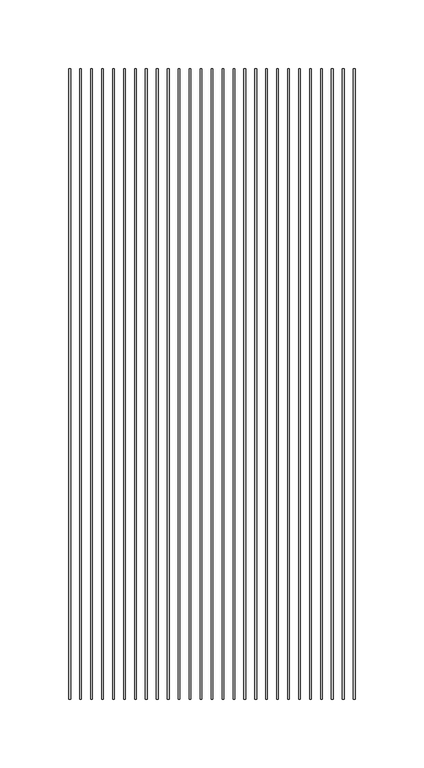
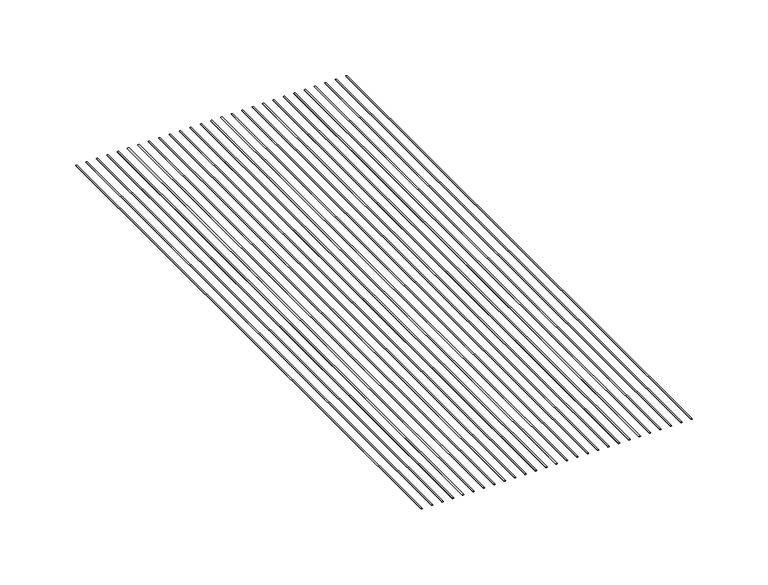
"""IFC4 building model written with IfcOpenShell, lengths in millimetres: proxy geometry, CRAi Generic Model Mesh Piece Face Based : CRAi Generic Model Mesh Piece Face Based."""

from ifc_helpers import new_model, si_unit, point, frame, origin, place, context, project, spatial, ellipse_curve, trimmed, source, transform, mapped, element, save
from ifc_brep_helpers import plane_surface, extruded_surface, advanced_brep


def generic_models_7232ab98(model_context):
    return source(origin(), model_context, "Body", "AdvancedBrep", [
        advanced_brep(
        [(-164.9015625, -228.6, -2.5796875), (-163.7109375, -228.6, -2.5796875), (-164.9015625, 228.6, -2.5796875), (-163.7109375, 228.6, -2.5796875)],
        [
            (0, 1, ellipse_curve(frame((-164.30625, -228.6, -2.5796875), z_axis=(0.0, -1.0, 0.0), x_axis=(1.0, 0.0, 0.0)), 0.5953125, 0.1984375)),
            (1, 0, ellipse_curve(frame((-164.30625, -228.6, -2.5796875), z_axis=(0.0, -1.0, 0.0), x_axis=(1.0, 0.0, 0.0)), 0.5953125, 0.1984375)),
            (2, 3, ellipse_curve(frame((-164.30625, 228.6, -2.5796875), z_axis=(0.0, 1.0, 0.0), x_axis=(1.0, 0.0, 0.0)), 0.5953125, 0.1984375)),
            (3, 2, ellipse_curve(frame((-164.30625, 228.6, -2.5796875), z_axis=(0.0, 1.0, 0.0), x_axis=(1.0, 0.0, 0.0)), 0.5953125, 0.1984375)),
            (0, 2),
            (3, 1),
        ],
        [
            plane_surface(frame((-164.30625, -228.6, -2.5796875), z_axis=(0.0, -1.0, 0.0), x_axis=(0.0, 0.0, 1.0))),
            plane_surface(frame((-164.30625, 228.6, -2.5796875), z_axis=(0.0, 1.0, 0.0), x_axis=(0.0, 0.0, 1.0))),
            extruded_surface(trimmed(ellipse_curve(frame((-164.30625, 228.6, -2.5796875), z_axis=(0.0, -1.0, 0.0), x_axis=(1.0, 0.0, 0.0)), 0.5953125, 0.1984375), [point((-164.9015625, 228.6, -2.5796875))], [point((-163.7109375, 228.6, -2.5796875))], True, "CARTESIAN"), (0.0, -457.2, 0.0), 457.2),
            extruded_surface(trimmed(ellipse_curve(frame((-164.30625, 228.6, -2.5796875), z_axis=(0.0, -1.0, 0.0), x_axis=(1.0, 0.0, 0.0)), 0.5953125, 0.1984375), [point((-163.7109375, 228.6, -2.5796875))], [point((-164.9015625, 228.6, -2.5796875))], True, "CARTESIAN"), (0.0, -457.2, 0.0), 457.2),
        ],
        [
            (0, [[1, 2]]),
            (1, [[3, 4]]),
            (2, [[-1, 5, -4, 6]]),
            (3, [[-2, -6, -3, -5]]),
        ],
    ),
        advanced_brep(
        [(-156.9640625, -228.6, -2.5796875), (-155.7734375, -228.6, -2.5796875), (-156.9640625, 228.6, -2.5796875), (-155.7734375, 228.6, -2.5796875)],
        [
            (0, 1, ellipse_curve(frame((-156.36875, -228.6, -2.5796875), z_axis=(0.0, -1.0, 0.0), x_axis=(1.0, 0.0, 0.0)), 0.5953125, 0.1984375)),
            (1, 0, ellipse_curve(frame((-156.36875, -228.6, -2.5796875), z_axis=(0.0, -1.0, 0.0), x_axis=(1.0, 0.0, 0.0)), 0.5953125, 0.1984375)),
            (2, 3, ellipse_curve(frame((-156.36875, 228.6, -2.5796875), z_axis=(0.0, 1.0, 0.0), x_axis=(1.0, 0.0, 0.0)), 0.5953125, 0.1984375)),
            (3, 2, ellipse_curve(frame((-156.36875, 228.6, -2.5796875), z_axis=(0.0, 1.0, 0.0), x_axis=(1.0, 0.0, 0.0)), 0.5953125, 0.1984375)),
            (0, 2),
            (3, 1),
        ],
        [
            plane_surface(frame((-156.36875, -228.6, -2.5796875), z_axis=(0.0, -1.0, 0.0), x_axis=(0.0, 0.0, 1.0))),
            plane_surface(frame((-156.36875, 228.6, -2.5796875), z_axis=(0.0, 1.0, 0.0), x_axis=(0.0, 0.0, 1.0))),
            extruded_surface(trimmed(ellipse_curve(frame((-156.36875, 228.6, -2.5796875), z_axis=(0.0, -1.0, 0.0), x_axis=(1.0, 0.0, 0.0)), 0.5953125, 0.1984375), [point((-156.9640625, 228.6, -2.5796875))], [point((-155.7734375, 228.6, -2.5796875))], True, "CARTESIAN"), (0.0, -457.2, 0.0), 457.2),
            extruded_surface(trimmed(ellipse_curve(frame((-156.36875, 228.6, -2.5796875), z_axis=(0.0, -1.0, 0.0), x_axis=(1.0, 0.0, 0.0)), 0.5953125, 0.1984375), [point((-155.7734375, 228.6, -2.5796875))], [point((-156.9640625, 228.6, -2.5796875))], True, "CARTESIAN"), (0.0, -457.2, 0.0), 457.2),
        ],
        [
            (0, [[1, 2]]),
            (1, [[3, 4]]),
            (2, [[-1, 5, -4, 6]]),
            (3, [[-2, -6, -3, -5]]),
        ],
    ),
        advanced_brep(
        [(-149.0265625, -228.6, -2.5796875), (-147.8359375, -228.6, -2.5796875), (-149.0265625, 228.6, -2.5796875), (-147.8359375, 228.6, -2.5796875)],
        [
            (0, 1, ellipse_curve(frame((-148.43125, -228.6, -2.5796875), z_axis=(0.0, -1.0, 0.0), x_axis=(1.0, 0.0, 0.0)), 0.5953125, 0.1984375)),
            (1, 0, ellipse_curve(frame((-148.43125, -228.6, -2.5796875), z_axis=(0.0, -1.0, 0.0), x_axis=(1.0, 0.0, 0.0)), 0.5953125, 0.1984375)),
            (2, 3, ellipse_curve(frame((-148.43125, 228.6, -2.5796875), z_axis=(0.0, 1.0, 0.0), x_axis=(1.0, 0.0, 0.0)), 0.5953125, 0.1984375)),
            (3, 2, ellipse_curve(frame((-148.43125, 228.6, -2.5796875), z_axis=(0.0, 1.0, 0.0), x_axis=(1.0, 0.0, 0.0)), 0.5953125, 0.1984375)),
            (0, 2),
            (3, 1),
        ],
        [
            plane_surface(frame((-148.43125, -228.6, -2.5796875), z_axis=(0.0, -1.0, 0.0), x_axis=(0.0, 0.0, 1.0))),
            plane_surface(frame((-148.43125, 228.6, -2.5796875), z_axis=(0.0, 1.0, 0.0), x_axis=(0.0, 0.0, 1.0))),
            extruded_surface(trimmed(ellipse_curve(frame((-148.43125, 228.6, -2.5796875), z_axis=(0.0, -1.0, 0.0), x_axis=(1.0, 0.0, 0.0)), 0.5953125, 0.1984375), [point((-149.0265625, 228.6, -2.5796875))], [point((-147.8359375, 228.6, -2.5796875))], True, "CARTESIAN"), (0.0, -457.2, 0.0), 457.2),
            extruded_surface(trimmed(ellipse_curve(frame((-148.43125, 228.6, -2.5796875), z_axis=(0.0, -1.0, 0.0), x_axis=(1.0, 0.0, 0.0)), 0.5953125, 0.1984375), [point((-147.8359375, 228.6, -2.5796875))], [point((-149.0265625, 228.6, -2.5796875))], True, "CARTESIAN"), (0.0, -457.2, 0.0), 457.2),
        ],
        [
            (0, [[1, 2]]),
            (1, [[3, 4]]),
            (2, [[-1, 5, -4, 6]]),
            (3, [[-2, -6, -3, -5]]),
        ],
    ),
        advanced_brep(
        [(-141.0890625, -228.6, -2.5796875), (-139.8984375, -228.6, -2.5796875), (-141.0890625, 228.6, -2.5796875), (-139.8984375, 228.6, -2.5796875)],
        [
            (0, 1, ellipse_curve(frame((-140.49375, -228.6, -2.5796875), z_axis=(0.0, -1.0, 0.0), x_axis=(1.0, 0.0, 0.0)), 0.5953125, 0.1984375)),
            (1, 0, ellipse_curve(frame((-140.49375, -228.6, -2.5796875), z_axis=(0.0, -1.0, 0.0), x_axis=(1.0, 0.0, 0.0)), 0.5953125, 0.1984375)),
            (2, 3, ellipse_curve(frame((-140.49375, 228.6, -2.5796875), z_axis=(0.0, 1.0, 0.0), x_axis=(1.0, 0.0, 0.0)), 0.5953125, 0.1984375)),
            (3, 2, ellipse_curve(frame((-140.49375, 228.6, -2.5796875), z_axis=(0.0, 1.0, 0.0), x_axis=(1.0, 0.0, 0.0)), 0.5953125, 0.1984375)),
            (0, 2),
            (3, 1),
        ],
        [
            plane_surface(frame((-140.49375, -228.6, -2.5796875), z_axis=(0.0, -1.0, 0.0), x_axis=(0.0, 0.0, 1.0))),
            plane_surface(frame((-140.49375, 228.6, -2.5796875), z_axis=(0.0, 1.0, 0.0), x_axis=(0.0, 0.0, 1.0))),
            extruded_surface(trimmed(ellipse_curve(frame((-140.49375, 228.6, -2.5796875), z_axis=(0.0, -1.0, 0.0), x_axis=(1.0, 0.0, 0.0)), 0.5953125, 0.1984375), [point((-141.0890625, 228.6, -2.5796875))], [point((-139.8984375, 228.6, -2.5796875))], True, "CARTESIAN"), (0.0, -457.2, 0.0), 457.2),
            extruded_surface(trimmed(ellipse_curve(frame((-140.49375, 228.6, -2.5796875), z_axis=(0.0, -1.0, 0.0), x_axis=(1.0, 0.0, 0.0)), 0.5953125, 0.1984375), [point((-139.8984375, 228.6, -2.5796875))], [point((-141.0890625, 228.6, -2.5796875))], True, "CARTESIAN"), (0.0, -457.2, 0.0), 457.2),
        ],
        [
            (0, [[1, 2]]),
            (1, [[3, 4]]),
            (2, [[-1, 5, -4, 6]]),
            (3, [[-2, -6, -3, -5]]),
        ],
    ),
        advanced_brep(
        [(-133.1515625, -228.6, -2.5796875), (-131.9609375, -228.6, -2.5796875), (-133.1515625, 228.6, -2.5796875), (-131.9609375, 228.6, -2.5796875)],
        [
            (0, 1, ellipse_curve(frame((-132.55625, -228.6, -2.5796875), z_axis=(0.0, -1.0, 0.0), x_axis=(1.0, 0.0, 0.0)), 0.5953125, 0.1984375)),
            (1, 0, ellipse_curve(frame((-132.55625, -228.6, -2.5796875), z_axis=(0.0, -1.0, 0.0), x_axis=(1.0, 0.0, 0.0)), 0.5953125, 0.1984375)),
            (2, 3, ellipse_curve(frame((-132.55625, 228.6, -2.5796875), z_axis=(0.0, 1.0, 0.0), x_axis=(1.0, 0.0, 0.0)), 0.5953125, 0.1984375)),
            (3, 2, ellipse_curve(frame((-132.55625, 228.6, -2.5796875), z_axis=(0.0, 1.0, 0.0), x_axis=(1.0, 0.0, 0.0)), 0.5953125, 0.1984375)),
            (0, 2),
            (3, 1),
        ],
        [
            plane_surface(frame((-132.55625, -228.6, -2.5796875), z_axis=(0.0, -1.0, 0.0), x_axis=(0.0, 0.0, 1.0))),
            plane_surface(frame((-132.55625, 228.6, -2.5796875), z_axis=(0.0, 1.0, 0.0), x_axis=(0.0, 0.0, 1.0))),
            extruded_surface(trimmed(ellipse_curve(frame((-132.55625, 228.6, -2.5796875), z_axis=(0.0, -1.0, 0.0), x_axis=(1.0, 0.0, 0.0)), 0.5953125, 0.1984375), [point((-133.1515625, 228.6, -2.5796875))], [point((-131.9609375, 228.6, -2.5796875))], True, "CARTESIAN"), (0.0, -457.2, 0.0), 457.2),
            extruded_surface(trimmed(ellipse_curve(frame((-132.55625, 228.6, -2.5796875), z_axis=(0.0, -1.0, 0.0), x_axis=(1.0, 0.0, 0.0)), 0.5953125, 0.1984375), [point((-131.9609375, 228.6, -2.5796875))], [point((-133.1515625, 228.6, -2.5796875))], True, "CARTESIAN"), (0.0, -457.2, 0.0), 457.2),
        ],
        [
            (0, [[1, 2]]),
            (1, [[3, 4]]),
            (2, [[-1, 5, -4, 6]]),
            (3, [[-2, -6, -3, -5]]),
        ],
    ),
        advanced_brep(
        [(-125.2140625, -228.6, -2.5796875), (-124.0234375, -228.6, -2.5796875), (-125.2140625, 228.6, -2.5796875), (-124.0234375, 228.6, -2.5796875)],
        [
            (0, 1, ellipse_curve(frame((-124.61875, -228.6, -2.5796875), z_axis=(0.0, -1.0, 0.0), x_axis=(1.0, 0.0, 0.0)), 0.5953125, 0.1984375)),
            (1, 0, ellipse_curve(frame((-124.61875, -228.6, -2.5796875), z_axis=(0.0, -1.0, 0.0), x_axis=(1.0, 0.0, 0.0)), 0.5953125, 0.1984375)),
            (2, 3, ellipse_curve(frame((-124.61875, 228.6, -2.5796875), z_axis=(0.0, 1.0, 0.0), x_axis=(1.0, 0.0, 0.0)), 0.5953125, 0.1984375)),
            (3, 2, ellipse_curve(frame((-124.61875, 228.6, -2.5796875), z_axis=(0.0, 1.0, 0.0), x_axis=(1.0, 0.0, 0.0)), 0.5953125, 0.1984375)),
            (0, 2),
            (3, 1),
        ],
        [
            plane_surface(frame((-124.61875, -228.6, -2.5796875), z_axis=(0.0, -1.0, 0.0), x_axis=(0.0, 0.0, 1.0))),
            plane_surface(frame((-124.61875, 228.6, -2.5796875), z_axis=(0.0, 1.0, 0.0), x_axis=(0.0, 0.0, 1.0))),
            extruded_surface(trimmed(ellipse_curve(frame((-124.61875, 228.6, -2.5796875), z_axis=(0.0, -1.0, 0.0), x_axis=(1.0, 0.0, 0.0)), 0.5953125, 0.1984375), [point((-125.2140625, 228.6, -2.5796875))], [point((-124.0234375, 228.6, -2.5796875))], True, "CARTESIAN"), (0.0, -457.2, 0.0), 457.2),
            extruded_surface(trimmed(ellipse_curve(frame((-124.61875, 228.6, -2.5796875), z_axis=(0.0, -1.0, 0.0), x_axis=(1.0, 0.0, 0.0)), 0.5953125, 0.1984375), [point((-124.0234375, 228.6, -2.5796875))], [point((-125.2140625, 228.6, -2.5796875))], True, "CARTESIAN"), (0.0, -457.2, 0.0), 457.2),
        ],
        [
            (0, [[1, 2]]),
            (1, [[3, 4]]),
            (2, [[-1, 5, -4, 6]]),
            (3, [[-2, -6, -3, -5]]),
        ],
    ),
        advanced_brep(
        [(-117.2765625, -228.6, -2.5796875), (-116.0859375, -228.6, -2.5796875), (-117.2765625, 228.6, -2.5796875), (-116.0859375, 228.6, -2.5796875)],
        [
            (0, 1, ellipse_curve(frame((-116.68125, -228.6, -2.5796875), z_axis=(0.0, -1.0, 0.0), x_axis=(1.0, 0.0, 0.0)), 0.5953125, 0.1984375)),
            (1, 0, ellipse_curve(frame((-116.68125, -228.6, -2.5796875), z_axis=(0.0, -1.0, 0.0), x_axis=(1.0, 0.0, 0.0)), 0.5953125, 0.1984375)),
            (2, 3, ellipse_curve(frame((-116.68125, 228.6, -2.5796875), z_axis=(0.0, 1.0, 0.0), x_axis=(1.0, 0.0, 0.0)), 0.5953125, 0.1984375)),
            (3, 2, ellipse_curve(frame((-116.68125, 228.6, -2.5796875), z_axis=(0.0, 1.0, 0.0), x_axis=(1.0, 0.0, 0.0)), 0.5953125, 0.1984375)),
            (0, 2),
            (3, 1),
        ],
        [
            plane_surface(frame((-116.68125, -228.6, -2.5796875), z_axis=(0.0, -1.0, 0.0), x_axis=(0.0, 0.0, 1.0))),
            plane_surface(frame((-116.68125, 228.6, -2.5796875), z_axis=(0.0, 1.0, 0.0), x_axis=(0.0, 0.0, 1.0))),
            extruded_surface(trimmed(ellipse_curve(frame((-116.68125, 228.6, -2.5796875), z_axis=(0.0, -1.0, 0.0), x_axis=(1.0, 0.0, 0.0)), 0.5953125, 0.1984375), [point((-117.2765625, 228.6, -2.5796875))], [point((-116.0859375, 228.6, -2.5796875))], True, "CARTESIAN"), (0.0, -457.2, 0.0), 457.2),
            extruded_surface(trimmed(ellipse_curve(frame((-116.68125, 228.6, -2.5796875), z_axis=(0.0, -1.0, 0.0), x_axis=(1.0, 0.0, 0.0)), 0.5953125, 0.1984375), [point((-116.0859375, 228.6, -2.5796875))], [point((-117.2765625, 228.6, -2.5796875))], True, "CARTESIAN"), (0.0, -457.2, 0.0), 457.2),
        ],
        [
            (0, [[1, 2]]),
            (1, [[3, 4]]),
            (2, [[-1, 5, -4, 6]]),
            (3, [[-2, -6, -3, -5]]),
        ],
    ),
        advanced_brep(
        [(-109.3390625, -228.6, -2.5796875), (-108.1484375, -228.6, -2.5796875), (-109.3390625, 228.6, -2.5796875), (-108.1484375, 228.6, -2.5796875)],
        [
            (0, 1, ellipse_curve(frame((-108.74375, -228.6, -2.5796875), z_axis=(0.0, -1.0, 0.0), x_axis=(1.0, 0.0, 0.0)), 0.5953125, 0.1984375)),
            (1, 0, ellipse_curve(frame((-108.74375, -228.6, -2.5796875), z_axis=(0.0, -1.0, 0.0), x_axis=(1.0, 0.0, 0.0)), 0.5953125, 0.1984375)),
            (2, 3, ellipse_curve(frame((-108.74375, 228.6, -2.5796875), z_axis=(0.0, 1.0, 0.0), x_axis=(1.0, 0.0, 0.0)), 0.5953125, 0.1984375)),
            (3, 2, ellipse_curve(frame((-108.74375, 228.6, -2.5796875), z_axis=(0.0, 1.0, 0.0), x_axis=(1.0, 0.0, 0.0)), 0.5953125, 0.1984375)),
            (0, 2),
            (3, 1),
        ],
        [
            plane_surface(frame((-108.74375, -228.6, -2.5796875), z_axis=(0.0, -1.0, 0.0), x_axis=(0.0, 0.0, 1.0))),
            plane_surface(frame((-108.74375, 228.6, -2.5796875), z_axis=(0.0, 1.0, 0.0), x_axis=(0.0, 0.0, 1.0))),
            extruded_surface(trimmed(ellipse_curve(frame((-108.74375, 228.6, -2.5796875), z_axis=(0.0, -1.0, 0.0), x_axis=(1.0, 0.0, 0.0)), 0.5953125, 0.1984375), [point((-109.3390625, 228.6, -2.5796875))], [point((-108.1484375, 228.6, -2.5796875))], True, "CARTESIAN"), (0.0, -457.2, 0.0), 457.2),
            extruded_surface(trimmed(ellipse_curve(frame((-108.74375, 228.6, -2.5796875), z_axis=(0.0, -1.0, 0.0), x_axis=(1.0, 0.0, 0.0)), 0.5953125, 0.1984375), [point((-108.1484375, 228.6, -2.5796875))], [point((-109.3390625, 228.6, -2.5796875))], True, "CARTESIAN"), (0.0, -457.2, 0.0), 457.2),
        ],
        [
            (0, [[1, 2]]),
            (1, [[3, 4]]),
            (2, [[-1, 5, -4, 6]]),
            (3, [[-2, -6, -3, -5]]),
        ],
    ),
        advanced_brep(
        [(-101.4015625, -228.6, -2.5796875), (-100.2109375, -228.6, -2.5796875), (-101.4015625, 228.6, -2.5796875), (-100.2109375, 228.6, -2.5796875)],
        [
            (0, 1, ellipse_curve(frame((-100.80625, -228.6, -2.5796875), z_axis=(0.0, -1.0, 0.0), x_axis=(1.0, 0.0, 0.0)), 0.5953125, 0.1984375)),
            (1, 0, ellipse_curve(frame((-100.80625, -228.6, -2.5796875), z_axis=(0.0, -1.0, 0.0), x_axis=(1.0, 0.0, 0.0)), 0.5953125, 0.1984375)),
            (2, 3, ellipse_curve(frame((-100.80625, 228.6, -2.5796875), z_axis=(0.0, 1.0, 0.0), x_axis=(1.0, 0.0, 0.0)), 0.5953125, 0.1984375)),
            (3, 2, ellipse_curve(frame((-100.80625, 228.6, -2.5796875), z_axis=(0.0, 1.0, 0.0), x_axis=(1.0, 0.0, 0.0)), 0.5953125, 0.1984375)),
            (0, 2),
            (3, 1),
        ],
        [
            plane_surface(frame((-100.80625, -228.6, -2.5796875), z_axis=(0.0, -1.0, 0.0), x_axis=(0.0, 0.0, 1.0))),
            plane_surface(frame((-100.80625, 228.6, -2.5796875), z_axis=(0.0, 1.0, 0.0), x_axis=(0.0, 0.0, 1.0))),
            extruded_surface(trimmed(ellipse_curve(frame((-100.80625, 228.6, -2.5796875), z_axis=(0.0, -1.0, 0.0), x_axis=(1.0, 0.0, 0.0)), 0.5953125, 0.1984375), [point((-101.4015625, 228.6, -2.5796875))], [point((-100.2109375, 228.6, -2.5796875))], True, "CARTESIAN"), (0.0, -457.2, 0.0), 457.2),
            extruded_surface(trimmed(ellipse_curve(frame((-100.80625, 228.6, -2.5796875), z_axis=(0.0, -1.0, 0.0), x_axis=(1.0, 0.0, 0.0)), 0.5953125, 0.1984375), [point((-100.2109375, 228.6, -2.5796875))], [point((-101.4015625, 228.6, -2.5796875))], True, "CARTESIAN"), (0.0, -457.2, 0.0), 457.2),
        ],
        [
            (0, [[1, 2]]),
            (1, [[3, 4]]),
            (2, [[-1, 5, -4, 6]]),
            (3, [[-2, -6, -3, -5]]),
        ],
    ),
        advanced_brep(
        [(-93.4640625, -228.6, -2.5796875), (-92.2734375, -228.6, -2.5796875), (-93.4640625, 228.6, -2.5796875), (-92.2734375, 228.6, -2.5796875)],
        [
            (0, 1, ellipse_curve(frame((-92.86875, -228.6, -2.5796875), z_axis=(0.0, -1.0, 0.0), x_axis=(1.0, 0.0, 0.0)), 0.5953125, 0.1984375)),
            (1, 0, ellipse_curve(frame((-92.86875, -228.6, -2.5796875), z_axis=(0.0, -1.0, 0.0), x_axis=(1.0, 0.0, 0.0)), 0.5953125, 0.1984375)),
            (2, 3, ellipse_curve(frame((-92.86875, 228.6, -2.5796875), z_axis=(0.0, 1.0, 0.0), x_axis=(1.0, 0.0, 0.0)), 0.5953125, 0.1984375)),
            (3, 2, ellipse_curve(frame((-92.86875, 228.6, -2.5796875), z_axis=(0.0, 1.0, 0.0), x_axis=(1.0, 0.0, 0.0)), 0.5953125, 0.1984375)),
            (0, 2),
            (3, 1),
        ],
        [
            plane_surface(frame((-92.86875, -228.6, -2.5796875), z_axis=(0.0, -1.0, 0.0), x_axis=(0.0, 0.0, 1.0))),
            plane_surface(frame((-92.86875, 228.6, -2.5796875), z_axis=(0.0, 1.0, 0.0), x_axis=(0.0, 0.0, 1.0))),
            extruded_surface(trimmed(ellipse_curve(frame((-92.86875, 228.6, -2.5796875), z_axis=(0.0, -1.0, 0.0), x_axis=(1.0, 0.0, 0.0)), 0.5953125, 0.1984375), [point((-93.4640625, 228.6, -2.5796875))], [point((-92.2734375, 228.6, -2.5796875))], True, "CARTESIAN"), (0.0, -457.2, 0.0), 457.2),
            extruded_surface(trimmed(ellipse_curve(frame((-92.86875, 228.6, -2.5796875), z_axis=(0.0, -1.0, 0.0), x_axis=(1.0, 0.0, 0.0)), 0.5953125, 0.1984375), [point((-92.2734375, 228.6, -2.5796875))], [point((-93.4640625, 228.6, -2.5796875))], True, "CARTESIAN"), (0.0, -457.2, 0.0), 457.2),
        ],
        [
            (0, [[1, 2]]),
            (1, [[3, 4]]),
            (2, [[-1, 5, -4, 6]]),
            (3, [[-2, -6, -3, -5]]),
        ],
    ),
        advanced_brep(
        [(-85.5265625, -228.6, -2.5796875), (-84.3359375, -228.6, -2.5796875), (-85.5265625, 228.6, -2.5796875), (-84.3359375, 228.6, -2.5796875)],
        [
            (0, 1, ellipse_curve(frame((-84.93125, -228.6, -2.5796875), z_axis=(0.0, -1.0, 0.0), x_axis=(1.0, 0.0, 0.0)), 0.5953125, 0.1984375)),
            (1, 0, ellipse_curve(frame((-84.93125, -228.6, -2.5796875), z_axis=(0.0, -1.0, 0.0), x_axis=(1.0, 0.0, 0.0)), 0.5953125, 0.1984375)),
            (2, 3, ellipse_curve(frame((-84.93125, 228.6, -2.5796875), z_axis=(0.0, 1.0, 0.0), x_axis=(1.0, 0.0, 0.0)), 0.5953125, 0.1984375)),
            (3, 2, ellipse_curve(frame((-84.93125, 228.6, -2.5796875), z_axis=(0.0, 1.0, 0.0), x_axis=(1.0, 0.0, 0.0)), 0.5953125, 0.1984375)),
            (0, 2),
            (3, 1),
        ],
        [
            plane_surface(frame((-84.93125, -228.6, -2.5796875), z_axis=(0.0, -1.0, 0.0), x_axis=(0.0, 0.0, 1.0))),
            plane_surface(frame((-84.93125, 228.6, -2.5796875), z_axis=(0.0, 1.0, 0.0), x_axis=(0.0, 0.0, 1.0))),
            extruded_surface(trimmed(ellipse_curve(frame((-84.93125, 228.6, -2.5796875), z_axis=(0.0, -1.0, 0.0), x_axis=(1.0, 0.0, 0.0)), 0.5953125, 0.1984375), [point((-85.5265625, 228.6, -2.5796875))], [point((-84.3359375, 228.6, -2.5796875))], True, "CARTESIAN"), (0.0, -457.2, 0.0), 457.2),
            extruded_surface(trimmed(ellipse_curve(frame((-84.93125, 228.6, -2.5796875), z_axis=(0.0, -1.0, 0.0), x_axis=(1.0, 0.0, 0.0)), 0.5953125, 0.1984375), [point((-84.3359375, 228.6, -2.5796875))], [point((-85.5265625, 228.6, -2.5796875))], True, "CARTESIAN"), (0.0, -457.2, 0.0), 457.2),
        ],
        [
            (0, [[1, 2]]),
            (1, [[3, 4]]),
            (2, [[-1, 5, -4, 6]]),
            (3, [[-2, -6, -3, -5]]),
        ],
    ),
        advanced_brep(
        [(-77.5890625, -228.6, -2.5796875), (-76.3984375, -228.6, -2.5796875), (-77.5890625, 228.6, -2.5796875), (-76.3984375, 228.6, -2.5796875)],
        [
            (0, 1, ellipse_curve(frame((-76.99375, -228.6, -2.5796875), z_axis=(0.0, -1.0, 0.0), x_axis=(1.0, 0.0, 0.0)), 0.5953125, 0.1984375)),
            (1, 0, ellipse_curve(frame((-76.99375, -228.6, -2.5796875), z_axis=(0.0, -1.0, 0.0), x_axis=(1.0, 0.0, 0.0)), 0.5953125, 0.1984375)),
            (2, 3, ellipse_curve(frame((-76.99375, 228.6, -2.5796875), z_axis=(0.0, 1.0, 0.0), x_axis=(1.0, 0.0, 0.0)), 0.5953125, 0.1984375)),
            (3, 2, ellipse_curve(frame((-76.99375, 228.6, -2.5796875), z_axis=(0.0, 1.0, 0.0), x_axis=(1.0, 0.0, 0.0)), 0.5953125, 0.1984375)),
            (0, 2),
            (3, 1),
        ],
        [
            plane_surface(frame((-76.99375, -228.6, -2.5796875), z_axis=(0.0, -1.0, 0.0), x_axis=(0.0, 0.0, 1.0))),
            plane_surface(frame((-76.99375, 228.6, -2.5796875), z_axis=(0.0, 1.0, 0.0), x_axis=(0.0, 0.0, 1.0))),
            extruded_surface(trimmed(ellipse_curve(frame((-76.99375, 228.6, -2.5796875), z_axis=(0.0, -1.0, 0.0), x_axis=(1.0, 0.0, 0.0)), 0.5953125, 0.1984375), [point((-77.5890625, 228.6, -2.5796875))], [point((-76.3984375, 228.6, -2.5796875))], True, "CARTESIAN"), (0.0, -457.2, 0.0), 457.2),
            extruded_surface(trimmed(ellipse_curve(frame((-76.99375, 228.6, -2.5796875), z_axis=(0.0, -1.0, 0.0), x_axis=(1.0, 0.0, 0.0)), 0.5953125, 0.1984375), [point((-76.3984375, 228.6, -2.5796875))], [point((-77.5890625, 228.6, -2.5796875))], True, "CARTESIAN"), (0.0, -457.2, 0.0), 457.2),
        ],
        [
            (0, [[1, 2]]),
            (1, [[3, 4]]),
            (2, [[-1, 5, -4, 6]]),
            (3, [[-2, -6, -3, -5]]),
        ],
    ),
        advanced_brep(
        [(-69.6515625, -228.6, -2.5796875), (-68.4609375, -228.6, -2.5796875), (-69.6515625, 228.6, -2.5796875), (-68.4609375, 228.6, -2.5796875)],
        [
            (0, 1, ellipse_curve(frame((-69.05625, -228.6, -2.5796875), z_axis=(0.0, -1.0, 0.0), x_axis=(1.0, 0.0, 0.0)), 0.5953125, 0.1984375)),
            (1, 0, ellipse_curve(frame((-69.05625, -228.6, -2.5796875), z_axis=(0.0, -1.0, 0.0), x_axis=(1.0, 0.0, 0.0)), 0.5953125, 0.1984375)),
            (2, 3, ellipse_curve(frame((-69.05625, 228.6, -2.5796875), z_axis=(0.0, 1.0, 0.0), x_axis=(1.0, 0.0, 0.0)), 0.5953125, 0.1984375)),
            (3, 2, ellipse_curve(frame((-69.05625, 228.6, -2.5796875), z_axis=(0.0, 1.0, 0.0), x_axis=(1.0, 0.0, 0.0)), 0.5953125, 0.1984375)),
            (0, 2),
            (3, 1),
        ],
        [
            plane_surface(frame((-69.05625, -228.6, -2.5796875), z_axis=(0.0, -1.0, 0.0), x_axis=(0.0, 0.0, 1.0))),
            plane_surface(frame((-69.05625, 228.6, -2.5796875), z_axis=(0.0, 1.0, 0.0), x_axis=(0.0, 0.0, 1.0))),
            extruded_surface(trimmed(ellipse_curve(frame((-69.05625, 228.6, -2.5796875), z_axis=(0.0, -1.0, 0.0), x_axis=(1.0, 0.0, 0.0)), 0.5953125, 0.1984375), [point((-69.6515625, 228.6, -2.5796875))], [point((-68.4609375, 228.6, -2.5796875))], True, "CARTESIAN"), (0.0, -457.2, 0.0), 457.2),
            extruded_surface(trimmed(ellipse_curve(frame((-69.05625, 228.6, -2.5796875), z_axis=(0.0, -1.0, 0.0), x_axis=(1.0, 0.0, 0.0)), 0.5953125, 0.1984375), [point((-68.4609375, 228.6, -2.5796875))], [point((-69.6515625, 228.6, -2.5796875))], True, "CARTESIAN"), (0.0, -457.2, 0.0), 457.2),
        ],
        [
            (0, [[1, 2]]),
            (1, [[3, 4]]),
            (2, [[-1, 5, -4, 6]]),
            (3, [[-2, -6, -3, -5]]),
        ],
    ),
        advanced_brep(
        [(-61.7140625, -228.6, -2.5796875), (-60.5234375, -228.6, -2.5796875), (-61.7140625, 228.6, -2.5796875), (-60.5234375, 228.6, -2.5796875)],
        [
            (0, 1, ellipse_curve(frame((-61.11875, -228.6, -2.5796875), z_axis=(0.0, -1.0, 0.0), x_axis=(1.0, 0.0, 0.0)), 0.5953125, 0.1984375)),
            (1, 0, ellipse_curve(frame((-61.11875, -228.6, -2.5796875), z_axis=(0.0, -1.0, 0.0), x_axis=(1.0, 0.0, 0.0)), 0.5953125, 0.1984375)),
            (2, 3, ellipse_curve(frame((-61.11875, 228.6, -2.5796875), z_axis=(0.0, 1.0, 0.0), x_axis=(1.0, 0.0, 0.0)), 0.5953125, 0.1984375)),
            (3, 2, ellipse_curve(frame((-61.11875, 228.6, -2.5796875), z_axis=(0.0, 1.0, 0.0), x_axis=(1.0, 0.0, 0.0)), 0.5953125, 0.1984375)),
            (0, 2),
            (3, 1),
        ],
        [
            plane_surface(frame((-61.11875, -228.6, -2.5796875), z_axis=(0.0, -1.0, 0.0), x_axis=(0.0, 0.0, 1.0))),
            plane_surface(frame((-61.11875, 228.6, -2.5796875), z_axis=(0.0, 1.0, 0.0), x_axis=(0.0, 0.0, 1.0))),
            extruded_surface(trimmed(ellipse_curve(frame((-61.11875, 228.6, -2.5796875), z_axis=(0.0, -1.0, 0.0), x_axis=(1.0, 0.0, 0.0)), 0.5953125, 0.1984375), [point((-61.7140625, 228.6, -2.5796875))], [point((-60.5234375, 228.6, -2.5796875))], True, "CARTESIAN"), (0.0, -457.2, 0.0), 457.2),
            extruded_surface(trimmed(ellipse_curve(frame((-61.11875, 228.6, -2.5796875), z_axis=(0.0, -1.0, 0.0), x_axis=(1.0, 0.0, 0.0)), 0.5953125, 0.1984375), [point((-60.5234375, 228.6, -2.5796875))], [point((-61.7140625, 228.6, -2.5796875))], True, "CARTESIAN"), (0.0, -457.2, 0.0), 457.2),
        ],
        [
            (0, [[1, 2]]),
            (1, [[3, 4]]),
            (2, [[-1, 5, -4, 6]]),
            (3, [[-2, -6, -3, -5]]),
        ],
    ),
        advanced_brep(
        [(-53.7765625, -228.6, -2.5796875), (-52.5859375, -228.6, -2.5796875), (-53.7765625, 228.6, -2.5796875), (-52.5859375, 228.6, -2.5796875)],
        [
            (0, 1, ellipse_curve(frame((-53.18125, -228.6, -2.5796875), z_axis=(0.0, -1.0, 0.0), x_axis=(1.0, 0.0, 0.0)), 0.5953125, 0.1984375)),
            (1, 0, ellipse_curve(frame((-53.18125, -228.6, -2.5796875), z_axis=(0.0, -1.0, 0.0), x_axis=(1.0, 0.0, 0.0)), 0.5953125, 0.1984375)),
            (2, 3, ellipse_curve(frame((-53.18125, 228.6, -2.5796875), z_axis=(0.0, 1.0, 0.0), x_axis=(1.0, 0.0, 0.0)), 0.5953125, 0.1984375)),
            (3, 2, ellipse_curve(frame((-53.18125, 228.6, -2.5796875), z_axis=(0.0, 1.0, 0.0), x_axis=(1.0, 0.0, 0.0)), 0.5953125, 0.1984375)),
            (0, 2),
            (3, 1),
        ],
        [
            plane_surface(frame((-53.18125, -228.6, -2.5796875), z_axis=(0.0, -1.0, 0.0), x_axis=(0.0, 0.0, 1.0))),
            plane_surface(frame((-53.18125, 228.6, -2.5796875), z_axis=(0.0, 1.0, 0.0), x_axis=(0.0, 0.0, 1.0))),
            extruded_surface(trimmed(ellipse_curve(frame((-53.18125, 228.6, -2.5796875), z_axis=(0.0, -1.0, 0.0), x_axis=(1.0, 0.0, 0.0)), 0.5953125, 0.1984375), [point((-53.7765625, 228.6, -2.5796875))], [point((-52.5859375, 228.6, -2.5796875))], True, "CARTESIAN"), (0.0, -457.2, 0.0), 457.2),
            extruded_surface(trimmed(ellipse_curve(frame((-53.18125, 228.6, -2.5796875), z_axis=(0.0, -1.0, 0.0), x_axis=(1.0, 0.0, 0.0)), 0.5953125, 0.1984375), [point((-52.5859375, 228.6, -2.5796875))], [point((-53.7765625, 228.6, -2.5796875))], True, "CARTESIAN"), (0.0, -457.2, 0.0), 457.2),
        ],
        [
            (0, [[1, 2]]),
            (1, [[3, 4]]),
            (2, [[-1, 5, -4, 6]]),
            (3, [[-2, -6, -3, -5]]),
        ],
    ),
        advanced_brep(
        [(-45.8390625, -228.6, -2.5796875), (-44.6484375, -228.6, -2.5796875), (-45.8390625, 228.6, -2.5796875), (-44.6484375, 228.6, -2.5796875)],
        [
            (0, 1, ellipse_curve(frame((-45.24375, -228.6, -2.5796875), z_axis=(0.0, -1.0, 0.0), x_axis=(1.0, 0.0, 0.0)), 0.5953125, 0.1984375)),
            (1, 0, ellipse_curve(frame((-45.24375, -228.6, -2.5796875), z_axis=(0.0, -1.0, 0.0), x_axis=(1.0, 0.0, 0.0)), 0.5953125, 0.1984375)),
            (2, 3, ellipse_curve(frame((-45.24375, 228.6, -2.5796875), z_axis=(0.0, 1.0, 0.0), x_axis=(1.0, 0.0, 0.0)), 0.5953125, 0.1984375)),
            (3, 2, ellipse_curve(frame((-45.24375, 228.6, -2.5796875), z_axis=(0.0, 1.0, 0.0), x_axis=(1.0, 0.0, 0.0)), 0.5953125, 0.1984375)),
            (0, 2),
            (3, 1),
        ],
        [
            plane_surface(frame((-45.24375, -228.6, -2.5796875), z_axis=(0.0, -1.0, 0.0), x_axis=(0.0, 0.0, 1.0))),
            plane_surface(frame((-45.24375, 228.6, -2.5796875), z_axis=(0.0, 1.0, 0.0), x_axis=(0.0, 0.0, 1.0))),
            extruded_surface(trimmed(ellipse_curve(frame((-45.24375, 228.6, -2.5796875), z_axis=(0.0, -1.0, 0.0), x_axis=(1.0, 0.0, 0.0)), 0.5953125, 0.1984375), [point((-45.8390625, 228.6, -2.5796875))], [point((-44.6484375, 228.6, -2.5796875))], True, "CARTESIAN"), (0.0, -457.2, 0.0), 457.2),
            extruded_surface(trimmed(ellipse_curve(frame((-45.24375, 228.6, -2.5796875), z_axis=(0.0, -1.0, 0.0), x_axis=(1.0, 0.0, 0.0)), 0.5953125, 0.1984375), [point((-44.6484375, 228.6, -2.5796875))], [point((-45.8390625, 228.6, -2.5796875))], True, "CARTESIAN"), (0.0, -457.2, 0.0), 457.2),
        ],
        [
            (0, [[1, 2]]),
            (1, [[3, 4]]),
            (2, [[-1, 5, -4, 6]]),
            (3, [[-2, -6, -3, -5]]),
        ],
    ),
        advanced_brep(
        [(-37.9015625, -228.6, -2.5796875), (-36.7109375, -228.6, -2.5796875), (-37.9015625, 228.6, -2.5796875), (-36.7109375, 228.6, -2.5796875)],
        [
            (0, 1, ellipse_curve(frame((-37.30625, -228.6, -2.5796875), z_axis=(0.0, -1.0, 0.0), x_axis=(1.0, 0.0, 0.0)), 0.5953125, 0.1984375)),
            (1, 0, ellipse_curve(frame((-37.30625, -228.6, -2.5796875), z_axis=(0.0, -1.0, 0.0), x_axis=(1.0, 0.0, 0.0)), 0.5953125, 0.1984375)),
            (2, 3, ellipse_curve(frame((-37.30625, 228.6, -2.5796875), z_axis=(0.0, 1.0, 0.0), x_axis=(1.0, 0.0, 0.0)), 0.5953125, 0.1984375)),
            (3, 2, ellipse_curve(frame((-37.30625, 228.6, -2.5796875), z_axis=(0.0, 1.0, 0.0), x_axis=(1.0, 0.0, 0.0)), 0.5953125, 0.1984375)),
            (0, 2),
            (3, 1),
        ],
        [
            plane_surface(frame((-37.30625, -228.6, -2.5796875), z_axis=(0.0, -1.0, 0.0), x_axis=(0.0, 0.0, 1.0))),
            plane_surface(frame((-37.30625, 228.6, -2.5796875), z_axis=(0.0, 1.0, 0.0), x_axis=(0.0, 0.0, 1.0))),
            extruded_surface(trimmed(ellipse_curve(frame((-37.30625, 228.6, -2.5796875), z_axis=(0.0, -1.0, 0.0), x_axis=(1.0, 0.0, 0.0)), 0.5953125, 0.1984375), [point((-37.9015625, 228.6, -2.5796875))], [point((-36.7109375, 228.6, -2.5796875))], True, "CARTESIAN"), (0.0, -457.2, 0.0), 457.2),
            extruded_surface(trimmed(ellipse_curve(frame((-37.30625, 228.6, -2.5796875), z_axis=(0.0, -1.0, 0.0), x_axis=(1.0, 0.0, 0.0)), 0.5953125, 0.1984375), [point((-36.7109375, 228.6, -2.5796875))], [point((-37.9015625, 228.6, -2.5796875))], True, "CARTESIAN"), (0.0, -457.2, 0.0), 457.2),
        ],
        [
            (0, [[1, 2]]),
            (1, [[3, 4]]),
            (2, [[-1, 5, -4, 6]]),
            (3, [[-2, -6, -3, -5]]),
        ],
    ),
        advanced_brep(
        [(-29.9640625, -228.6, -2.5796875), (-28.7734375, -228.6, -2.5796875), (-29.9640625, 228.6, -2.5796875), (-28.7734375, 228.6, -2.5796875)],
        [
            (0, 1, ellipse_curve(frame((-29.36875, -228.6, -2.5796875), z_axis=(0.0, -1.0, 0.0), x_axis=(1.0, 0.0, 0.0)), 0.5953125, 0.1984375)),
            (1, 0, ellipse_curve(frame((-29.36875, -228.6, -2.5796875), z_axis=(0.0, -1.0, 0.0), x_axis=(1.0, 0.0, 0.0)), 0.5953125, 0.1984375)),
            (2, 3, ellipse_curve(frame((-29.36875, 228.6, -2.5796875), z_axis=(0.0, 1.0, 0.0), x_axis=(1.0, 0.0, 0.0)), 0.5953125, 0.1984375)),
            (3, 2, ellipse_curve(frame((-29.36875, 228.6, -2.5796875), z_axis=(0.0, 1.0, 0.0), x_axis=(1.0, 0.0, 0.0)), 0.5953125, 0.1984375)),
            (0, 2),
            (3, 1),
        ],
        [
            plane_surface(frame((-29.36875, -228.6, -2.5796875), z_axis=(0.0, -1.0, 0.0), x_axis=(0.0, 0.0, 1.0))),
            plane_surface(frame((-29.36875, 228.6, -2.5796875), z_axis=(0.0, 1.0, 0.0), x_axis=(0.0, 0.0, 1.0))),
            extruded_surface(trimmed(ellipse_curve(frame((-29.36875, 228.6, -2.5796875), z_axis=(0.0, -1.0, 0.0), x_axis=(1.0, 0.0, 0.0)), 0.5953125, 0.1984375), [point((-29.9640625, 228.6, -2.5796875))], [point((-28.7734375, 228.6, -2.5796875))], True, "CARTESIAN"), (0.0, -457.2, 0.0), 457.2),
            extruded_surface(trimmed(ellipse_curve(frame((-29.36875, 228.6, -2.5796875), z_axis=(0.0, -1.0, 0.0), x_axis=(1.0, 0.0, 0.0)), 0.5953125, 0.1984375), [point((-28.7734375, 228.6, -2.5796875))], [point((-29.9640625, 228.6, -2.5796875))], True, "CARTESIAN"), (0.0, -457.2, 0.0), 457.2),
        ],
        [
            (0, [[1, 2]]),
            (1, [[3, 4]]),
            (2, [[-1, 5, -4, 6]]),
            (3, [[-2, -6, -3, -5]]),
        ],
    ),
        advanced_brep(
        [(-22.0265625, -228.6, -2.5796875), (-20.8359375, -228.6, -2.5796875), (-22.0265625, 228.6, -2.5796875), (-20.8359375, 228.6, -2.5796875)],
        [
            (0, 1, ellipse_curve(frame((-21.43125, -228.6, -2.5796875), z_axis=(0.0, -1.0, 0.0), x_axis=(1.0, 0.0, 0.0)), 0.5953125, 0.1984375)),
            (1, 0, ellipse_curve(frame((-21.43125, -228.6, -2.5796875), z_axis=(0.0, -1.0, 0.0), x_axis=(1.0, 0.0, 0.0)), 0.5953125, 0.1984375)),
            (2, 3, ellipse_curve(frame((-21.43125, 228.6, -2.5796875), z_axis=(0.0, 1.0, 0.0), x_axis=(1.0, 0.0, 0.0)), 0.5953125, 0.1984375)),
            (3, 2, ellipse_curve(frame((-21.43125, 228.6, -2.5796875), z_axis=(0.0, 1.0, 0.0), x_axis=(1.0, 0.0, 0.0)), 0.5953125, 0.1984375)),
            (0, 2),
            (3, 1),
        ],
        [
            plane_surface(frame((-21.43125, -228.6, -2.5796875), z_axis=(0.0, -1.0, 0.0), x_axis=(0.0, 0.0, 1.0))),
            plane_surface(frame((-21.43125, 228.6, -2.5796875), z_axis=(0.0, 1.0, 0.0), x_axis=(0.0, 0.0, 1.0))),
            extruded_surface(trimmed(ellipse_curve(frame((-21.43125, 228.6, -2.5796875), z_axis=(0.0, -1.0, 0.0), x_axis=(1.0, 0.0, 0.0)), 0.5953125, 0.1984375), [point((-22.0265625, 228.6, -2.5796875))], [point((-20.8359375, 228.6, -2.5796875))], True, "CARTESIAN"), (0.0, -457.2, 0.0), 457.2),
            extruded_surface(trimmed(ellipse_curve(frame((-21.43125, 228.6, -2.5796875), z_axis=(0.0, -1.0, 0.0), x_axis=(1.0, 0.0, 0.0)), 0.5953125, 0.1984375), [point((-20.8359375, 228.6, -2.5796875))], [point((-22.0265625, 228.6, -2.5796875))], True, "CARTESIAN"), (0.0, -457.2, 0.0), 457.2),
        ],
        [
            (0, [[1, 2]]),
            (1, [[3, 4]]),
            (2, [[-1, 5, -4, 6]]),
            (3, [[-2, -6, -3, -5]]),
        ],
    ),
        advanced_brep(
        [(-14.0890625, -228.6, -2.5796875), (-12.8984375, -228.6, -2.5796875), (-14.0890625, 228.6, -2.5796875), (-12.8984375, 228.6, -2.5796875)],
        [
            (0, 1, ellipse_curve(frame((-13.49375, -228.6, -2.5796875), z_axis=(0.0, -1.0, 0.0), x_axis=(1.0, 0.0, 0.0)), 0.5953125, 0.1984375)),
            (1, 0, ellipse_curve(frame((-13.49375, -228.6, -2.5796875), z_axis=(0.0, -1.0, 0.0), x_axis=(1.0, 0.0, 0.0)), 0.5953125, 0.1984375)),
            (2, 3, ellipse_curve(frame((-13.49375, 228.6, -2.5796875), z_axis=(0.0, 1.0, 0.0), x_axis=(1.0, 0.0, 0.0)), 0.5953125, 0.1984375)),
            (3, 2, ellipse_curve(frame((-13.49375, 228.6, -2.5796875), z_axis=(0.0, 1.0, 0.0), x_axis=(1.0, 0.0, 0.0)), 0.5953125, 0.1984375)),
            (0, 2),
            (3, 1),
        ],
        [
            plane_surface(frame((-13.49375, -228.6, -2.5796875), z_axis=(0.0, -1.0, 0.0), x_axis=(0.0, 0.0, 1.0))),
            plane_surface(frame((-13.49375, 228.6, -2.5796875), z_axis=(0.0, 1.0, 0.0), x_axis=(0.0, 0.0, 1.0))),
            extruded_surface(trimmed(ellipse_curve(frame((-13.49375, 228.6, -2.5796875), z_axis=(0.0, -1.0, 0.0), x_axis=(1.0, 0.0, 0.0)), 0.5953125, 0.1984375), [point((-14.0890625, 228.6, -2.5796875))], [point((-12.8984375, 228.6, -2.5796875))], True, "CARTESIAN"), (0.0, -457.2, 0.0), 457.2),
            extruded_surface(trimmed(ellipse_curve(frame((-13.49375, 228.6, -2.5796875), z_axis=(0.0, -1.0, 0.0), x_axis=(1.0, 0.0, 0.0)), 0.5953125, 0.1984375), [point((-12.8984375, 228.6, -2.5796875))], [point((-14.0890625, 228.6, -2.5796875))], True, "CARTESIAN"), (0.0, -457.2, 0.0), 457.2),
        ],
        [
            (0, [[1, 2]]),
            (1, [[3, 4]]),
            (2, [[-1, 5, -4, 6]]),
            (3, [[-2, -6, -3, -5]]),
        ],
    ),
        advanced_brep(
        [(-6.1515625, -228.6, -2.5796875), (-4.9609375, -228.6, -2.5796875), (-6.1515625, 228.6, -2.5796875), (-4.9609375, 228.6, -2.5796875)],
        [
            (0, 1, ellipse_curve(frame((-5.55625, -228.6, -2.5796875), z_axis=(0.0, -1.0, 0.0), x_axis=(1.0, 0.0, 0.0)), 0.5953125, 0.1984375)),
            (1, 0, ellipse_curve(frame((-5.55625, -228.6, -2.5796875), z_axis=(0.0, -1.0, 0.0), x_axis=(1.0, 0.0, 0.0)), 0.5953125, 0.1984375)),
            (2, 3, ellipse_curve(frame((-5.55625, 228.6, -2.5796875), z_axis=(0.0, 1.0, 0.0), x_axis=(1.0, 0.0, 0.0)), 0.5953125, 0.1984375)),
            (3, 2, ellipse_curve(frame((-5.55625, 228.6, -2.5796875), z_axis=(0.0, 1.0, 0.0), x_axis=(1.0, 0.0, 0.0)), 0.5953125, 0.1984375)),
            (0, 2),
            (3, 1),
        ],
        [
            plane_surface(frame((-5.55625, -228.6, -2.5796875), z_axis=(0.0, -1.0, 0.0), x_axis=(0.0, 0.0, 1.0))),
            plane_surface(frame((-5.55625, 228.6, -2.5796875), z_axis=(0.0, 1.0, 0.0), x_axis=(0.0, 0.0, 1.0))),
            extruded_surface(trimmed(ellipse_curve(frame((-5.55625, 228.6, -2.5796875), z_axis=(0.0, -1.0, 0.0), x_axis=(1.0, 0.0, 0.0)), 0.5953125, 0.1984375), [point((-6.1515625, 228.6, -2.5796875))], [point((-4.9609375, 228.6, -2.5796875))], True, "CARTESIAN"), (0.0, -457.2, 0.0), 457.2),
            extruded_surface(trimmed(ellipse_curve(frame((-5.55625, 228.6, -2.5796875), z_axis=(0.0, -1.0, 0.0), x_axis=(1.0, 0.0, 0.0)), 0.5953125, 0.1984375), [point((-4.9609375, 228.6, -2.5796875))], [point((-6.1515625, 228.6, -2.5796875))], True, "CARTESIAN"), (0.0, -457.2, 0.0), 457.2),
        ],
        [
            (0, [[1, 2]]),
            (1, [[3, 4]]),
            (2, [[-1, 5, -4, 6]]),
            (3, [[-2, -6, -3, -5]]),
        ],
    ),
        advanced_brep(
        [(1.7859375, -228.6, -2.5796875), (2.9765625, -228.6, -2.5796875), (1.7859375, 228.6, -2.5796875), (2.9765625, 228.6, -2.5796875)],
        [
            (0, 1, ellipse_curve(frame((2.38125, -228.6, -2.5796875), z_axis=(0.0, -1.0, 0.0), x_axis=(1.0, 0.0, 0.0)), 0.5953125, 0.1984375)),
            (1, 0, ellipse_curve(frame((2.38125, -228.6, -2.5796875), z_axis=(0.0, -1.0, 0.0), x_axis=(1.0, 0.0, 0.0)), 0.5953125, 0.1984375)),
            (2, 3, ellipse_curve(frame((2.38125, 228.6, -2.5796875), z_axis=(0.0, 1.0, 0.0), x_axis=(1.0, 0.0, 0.0)), 0.5953125, 0.1984375)),
            (3, 2, ellipse_curve(frame((2.38125, 228.6, -2.5796875), z_axis=(0.0, 1.0, 0.0), x_axis=(1.0, 0.0, 0.0)), 0.5953125, 0.1984375)),
            (0, 2),
            (3, 1),
        ],
        [
            plane_surface(frame((2.38125, -228.6, -2.5796875), z_axis=(0.0, -1.0, 0.0), x_axis=(0.0, 0.0, 1.0))),
            plane_surface(frame((2.38125, 228.6, -2.5796875), z_axis=(0.0, 1.0, 0.0), x_axis=(0.0, 0.0, 1.0))),
            extruded_surface(trimmed(ellipse_curve(frame((2.38125, 228.6, -2.5796875), z_axis=(0.0, -1.0, 0.0), x_axis=(1.0, 0.0, 0.0)), 0.5953125, 0.1984375), [point((1.7859375, 228.6, -2.5796875))], [point((2.9765625, 228.6, -2.5796875))], True, "CARTESIAN"), (0.0, -457.2, 0.0), 457.2),
            extruded_surface(trimmed(ellipse_curve(frame((2.38125, 228.6, -2.5796875), z_axis=(0.0, -1.0, 0.0), x_axis=(1.0, 0.0, 0.0)), 0.5953125, 0.1984375), [point((2.9765625, 228.6, -2.5796875))], [point((1.7859375, 228.6, -2.5796875))], True, "CARTESIAN"), (0.0, -457.2, 0.0), 457.2),
        ],
        [
            (0, [[1, 2]]),
            (1, [[3, 4]]),
            (2, [[-1, 5, -4, 6]]),
            (3, [[-2, -6, -3, -5]]),
        ],
    ),
        advanced_brep(
        [(9.7234375, -228.6, -2.5796875), (10.9140625, -228.6, -2.5796875), (9.7234375, 228.6, -2.5796875), (10.9140625, 228.6, -2.5796875)],
        [
            (0, 1, ellipse_curve(frame((10.31875, -228.6, -2.5796875), z_axis=(0.0, -1.0, 0.0), x_axis=(1.0, 0.0, 0.0)), 0.5953125, 0.1984375)),
            (1, 0, ellipse_curve(frame((10.31875, -228.6, -2.5796875), z_axis=(0.0, -1.0, 0.0), x_axis=(1.0, 0.0, 0.0)), 0.5953125, 0.1984375)),
            (2, 3, ellipse_curve(frame((10.31875, 228.6, -2.5796875), z_axis=(0.0, 1.0, 0.0), x_axis=(1.0, 0.0, 0.0)), 0.5953125, 0.1984375)),
            (3, 2, ellipse_curve(frame((10.31875, 228.6, -2.5796875), z_axis=(0.0, 1.0, 0.0), x_axis=(1.0, 0.0, 0.0)), 0.5953125, 0.1984375)),
            (0, 2),
            (3, 1),
        ],
        [
            plane_surface(frame((10.31875, -228.6, -2.5796875), z_axis=(0.0, -1.0, 0.0), x_axis=(0.0, 0.0, 1.0))),
            plane_surface(frame((10.31875, 228.6, -2.5796875), z_axis=(0.0, 1.0, 0.0), x_axis=(0.0, 0.0, 1.0))),
            extruded_surface(trimmed(ellipse_curve(frame((10.31875, 228.6, -2.5796875), z_axis=(0.0, -1.0, 0.0), x_axis=(1.0, 0.0, 0.0)), 0.5953125, 0.1984375), [point((9.7234375, 228.6, -2.5796875))], [point((10.9140625, 228.6, -2.5796875))], True, "CARTESIAN"), (0.0, -457.2, 0.0), 457.2),
            extruded_surface(trimmed(ellipse_curve(frame((10.31875, 228.6, -2.5796875), z_axis=(0.0, -1.0, 0.0), x_axis=(1.0, 0.0, 0.0)), 0.5953125, 0.1984375), [point((10.9140625, 228.6, -2.5796875))], [point((9.7234375, 228.6, -2.5796875))], True, "CARTESIAN"), (0.0, -457.2, 0.0), 457.2),
        ],
        [
            (0, [[1, 2]]),
            (1, [[3, 4]]),
            (2, [[-1, 5, -4, 6]]),
            (3, [[-2, -6, -3, -5]]),
        ],
    ),
        advanced_brep(
        [(17.6609375, -228.6, -2.5796875), (18.8515625, -228.6, -2.5796875), (17.6609375, 228.6, -2.5796875), (18.8515625, 228.6, -2.5796875)],
        [
            (0, 1, ellipse_curve(frame((18.25625, -228.6, -2.5796875), z_axis=(0.0, -1.0, 0.0), x_axis=(1.0, 0.0, 0.0)), 0.5953125, 0.1984375)),
            (1, 0, ellipse_curve(frame((18.25625, -228.6, -2.5796875), z_axis=(0.0, -1.0, 0.0), x_axis=(1.0, 0.0, 0.0)), 0.5953125, 0.1984375)),
            (2, 3, ellipse_curve(frame((18.25625, 228.6, -2.5796875), z_axis=(0.0, 1.0, 0.0), x_axis=(1.0, 0.0, 0.0)), 0.5953125, 0.1984375)),
            (3, 2, ellipse_curve(frame((18.25625, 228.6, -2.5796875), z_axis=(0.0, 1.0, 0.0), x_axis=(1.0, 0.0, 0.0)), 0.5953125, 0.1984375)),
            (0, 2),
            (3, 1),
        ],
        [
            plane_surface(frame((18.25625, -228.6, -2.5796875), z_axis=(0.0, -1.0, 0.0), x_axis=(0.0, 0.0, 1.0))),
            plane_surface(frame((18.25625, 228.6, -2.5796875), z_axis=(0.0, 1.0, 0.0), x_axis=(0.0, 0.0, 1.0))),
            extruded_surface(trimmed(ellipse_curve(frame((18.25625, 228.6, -2.5796875), z_axis=(0.0, -1.0, 0.0), x_axis=(1.0, 0.0, 0.0)), 0.5953125, 0.1984375), [point((17.6609375, 228.6, -2.5796875))], [point((18.8515625, 228.6, -2.5796875))], True, "CARTESIAN"), (0.0, -457.2, 0.0), 457.2),
            extruded_surface(trimmed(ellipse_curve(frame((18.25625, 228.6, -2.5796875), z_axis=(0.0, -1.0, 0.0), x_axis=(1.0, 0.0, 0.0)), 0.5953125, 0.1984375), [point((18.8515625, 228.6, -2.5796875))], [point((17.6609375, 228.6, -2.5796875))], True, "CARTESIAN"), (0.0, -457.2, 0.0), 457.2),
        ],
        [
            (0, [[1, 2]]),
            (1, [[3, 4]]),
            (2, [[-1, 5, -4, 6]]),
            (3, [[-2, -6, -3, -5]]),
        ],
    ),
        advanced_brep(
        [(25.5984375, -228.6, -2.5796875), (26.7890625, -228.6, -2.5796875), (25.5984375, 228.6, -2.5796875), (26.7890625, 228.6, -2.5796875)],
        [
            (0, 1, ellipse_curve(frame((26.19375, -228.6, -2.5796875), z_axis=(0.0, -1.0, 0.0), x_axis=(1.0, 0.0, 0.0)), 0.5953125, 0.1984375)),
            (1, 0, ellipse_curve(frame((26.19375, -228.6, -2.5796875), z_axis=(0.0, -1.0, 0.0), x_axis=(1.0, 0.0, 0.0)), 0.5953125, 0.1984375)),
            (2, 3, ellipse_curve(frame((26.19375, 228.6, -2.5796875), z_axis=(0.0, 1.0, 0.0), x_axis=(1.0, 0.0, 0.0)), 0.5953125, 0.1984375)),
            (3, 2, ellipse_curve(frame((26.19375, 228.6, -2.5796875), z_axis=(0.0, 1.0, 0.0), x_axis=(1.0, 0.0, 0.0)), 0.5953125, 0.1984375)),
            (0, 2),
            (3, 1),
        ],
        [
            plane_surface(frame((26.19375, -228.6, -2.5796875), z_axis=(0.0, -1.0, 0.0), x_axis=(0.0, 0.0, 1.0))),
            plane_surface(frame((26.19375, 228.6, -2.5796875), z_axis=(0.0, 1.0, 0.0), x_axis=(0.0, 0.0, 1.0))),
            extruded_surface(trimmed(ellipse_curve(frame((26.19375, 228.6, -2.5796875), z_axis=(0.0, -1.0, 0.0), x_axis=(1.0, 0.0, 0.0)), 0.5953125, 0.1984375), [point((25.5984375, 228.6, -2.5796875))], [point((26.7890625, 228.6, -2.5796875))], True, "CARTESIAN"), (0.0, -457.2, 0.0), 457.2),
            extruded_surface(trimmed(ellipse_curve(frame((26.19375, 228.6, -2.5796875), z_axis=(0.0, -1.0, 0.0), x_axis=(1.0, 0.0, 0.0)), 0.5953125, 0.1984375), [point((26.7890625, 228.6, -2.5796875))], [point((25.5984375, 228.6, -2.5796875))], True, "CARTESIAN"), (0.0, -457.2, 0.0), 457.2),
        ],
        [
            (0, [[1, 2]]),
            (1, [[3, 4]]),
            (2, [[-1, 5, -4, 6]]),
            (3, [[-2, -6, -3, -5]]),
        ],
    ),
        advanced_brep(
        [(33.5359375, -228.6, -2.5796875), (34.7265625, -228.6, -2.5796875), (33.5359375, 228.6, -2.5796875), (34.7265625, 228.6, -2.5796875)],
        [
            (0, 1, ellipse_curve(frame((34.13125, -228.6, -2.5796875), z_axis=(0.0, -1.0, 0.0), x_axis=(1.0, 0.0, 0.0)), 0.5953125, 0.1984375)),
            (1, 0, ellipse_curve(frame((34.13125, -228.6, -2.5796875), z_axis=(0.0, -1.0, 0.0), x_axis=(1.0, 0.0, 0.0)), 0.5953125, 0.1984375)),
            (2, 3, ellipse_curve(frame((34.13125, 228.6, -2.5796875), z_axis=(0.0, 1.0, 0.0), x_axis=(1.0, 0.0, 0.0)), 0.5953125, 0.1984375)),
            (3, 2, ellipse_curve(frame((34.13125, 228.6, -2.5796875), z_axis=(0.0, 1.0, 0.0), x_axis=(1.0, 0.0, 0.0)), 0.5953125, 0.1984375)),
            (0, 2),
            (3, 1),
        ],
        [
            plane_surface(frame((34.13125, -228.6, -2.5796875), z_axis=(0.0, -1.0, 0.0), x_axis=(0.0, 0.0, 1.0))),
            plane_surface(frame((34.13125, 228.6, -2.5796875), z_axis=(0.0, 1.0, 0.0), x_axis=(0.0, 0.0, 1.0))),
            extruded_surface(trimmed(ellipse_curve(frame((34.13125, 228.6, -2.5796875), z_axis=(0.0, -1.0, 0.0), x_axis=(1.0, 0.0, 0.0)), 0.5953125, 0.1984375), [point((33.5359375, 228.6, -2.5796875))], [point((34.7265625, 228.6, -2.5796875))], True, "CARTESIAN"), (0.0, -457.2, 0.0), 457.2),
            extruded_surface(trimmed(ellipse_curve(frame((34.13125, 228.6, -2.5796875), z_axis=(0.0, -1.0, 0.0), x_axis=(1.0, 0.0, 0.0)), 0.5953125, 0.1984375), [point((34.7265625, 228.6, -2.5796875))], [point((33.5359375, 228.6, -2.5796875))], True, "CARTESIAN"), (0.0, -457.2, 0.0), 457.2),
        ],
        [
            (0, [[1, 2]]),
            (1, [[3, 4]]),
            (2, [[-1, 5, -4, 6]]),
            (3, [[-2, -6, -3, -5]]),
        ],
    ),
        advanced_brep(
        [(41.4734375, -228.6, -2.5796875), (42.6640625, -228.6, -2.5796875), (41.4734375, 228.6, -2.5796875), (42.6640625, 228.6, -2.5796875)],
        [
            (0, 1, ellipse_curve(frame((42.06875, -228.6, -2.5796875), z_axis=(0.0, -1.0, 0.0), x_axis=(1.0, 0.0, 0.0)), 0.5953125, 0.1984375)),
            (1, 0, ellipse_curve(frame((42.06875, -228.6, -2.5796875), z_axis=(0.0, -1.0, 0.0), x_axis=(1.0, 0.0, 0.0)), 0.5953125, 0.1984375)),
            (2, 3, ellipse_curve(frame((42.06875, 228.6, -2.5796875), z_axis=(0.0, 1.0, 0.0), x_axis=(1.0, 0.0, 0.0)), 0.5953125, 0.1984375)),
            (3, 2, ellipse_curve(frame((42.06875, 228.6, -2.5796875), z_axis=(0.0, 1.0, 0.0), x_axis=(1.0, 0.0, 0.0)), 0.5953125, 0.1984375)),
            (0, 2),
            (3, 1),
        ],
        [
            plane_surface(frame((42.06875, -228.6, -2.5796875), z_axis=(0.0, -1.0, 0.0), x_axis=(0.0, 0.0, 1.0))),
            plane_surface(frame((42.06875, 228.6, -2.5796875), z_axis=(0.0, 1.0, 0.0), x_axis=(0.0, 0.0, 1.0))),
            extruded_surface(trimmed(ellipse_curve(frame((42.06875, 228.6, -2.5796875), z_axis=(0.0, -1.0, 0.0), x_axis=(1.0, 0.0, 0.0)), 0.5953125, 0.1984375), [point((41.4734375, 228.6, -2.5796875))], [point((42.6640625, 228.6, -2.5796875))], True, "CARTESIAN"), (0.0, -457.2, 0.0), 457.2),
            extruded_surface(trimmed(ellipse_curve(frame((42.06875, 228.6, -2.5796875), z_axis=(0.0, -1.0, 0.0), x_axis=(1.0, 0.0, 0.0)), 0.5953125, 0.1984375), [point((42.6640625, 228.6, -2.5796875))], [point((41.4734375, 228.6, -2.5796875))], True, "CARTESIAN"), (0.0, -457.2, 0.0), 457.2),
        ],
        [
            (0, [[1, 2]]),
            (1, [[3, 4]]),
            (2, [[-1, 5, -4, 6]]),
            (3, [[-2, -6, -3, -5]]),
        ],
    ),
    ])


if __name__ == "__main__":
    model = new_model("IFC4")
    model_context = context("Model", 3, world=origin())
    ifc_project = project(units=[si_unit("LENGTHUNIT", "METRE", prefix="MILLI")], contexts=[model_context])
    site = spatial("IfcSite", under=ifc_project)
    building = spatial("IfcBuilding", under=site)
    placement = place(None, origin())
    generic_models_shape = generic_models_7232ab98(model_context)
    element("IfcBuildingElementProxy", 1, Name="CRAi Generic Model Mesh Piece Face Based : CRAi Generic Model Mesh Piece Face Based", ObjectType="CRAi Generic Model Mesh Piece Face Based : CRAi Generic Model Mesh Piece Face Based", at=placement, inside=building, context=model_context, shape_type="MappedRepresentation", body=[
        mapped(generic_models_shape, transform((0.0, 0.0, 0.0), x_axis=(1.0, 0.0, 0.0), y_axis=(0.0, 1.0, 0.0), z_axis=(0.0, 0.0, 1.0))),
    ])
    save(model, "model.ifc")
